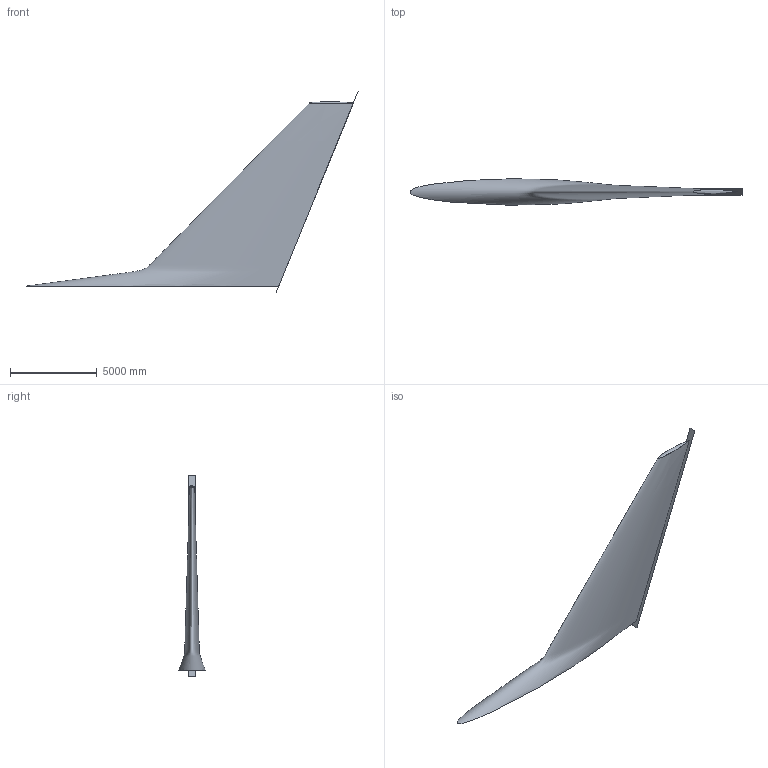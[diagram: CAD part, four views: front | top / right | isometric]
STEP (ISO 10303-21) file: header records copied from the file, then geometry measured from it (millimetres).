
FILE_DESCRIPTION((''),'2;1');
FILE_NAME('','2022-05-19T13:11:20',(''),(''),'','CADfix','');
FILE_SCHEMA(('AUTOMOTIVE_DESIGN { 1 0 10303 214 1 1 1 1 }'));
Bounding box: 19160.79 x 1526.01 x 11562.97 mm (x, y, z)
Surface area: 139338338.9 mm2 (no closed solid volume)
Topology: 0 solids, 0 shells, 3 faces, 12 edges, 11 vertices
Faces by surface type: bspline 3
Entity records: 64561 total; most frequent: CARTESIAN_POINT 64539, B_SPLINE_SURFACE_WITH_KNOTS 3, DIMENSIONAL_EXPONENTS 2, PLANE_ANGLE_MEASURE_WITH_UNIT 1, LENGTH_MEASURE_WITH_UNIT 1, UNCERTAINTY_MEASURE_WITH_UNIT 1, GEOMETRIC_SET 1, GEOMETRICALLY_BOUNDED_SURFACE_SHAPE_REPRESENTATION 1
